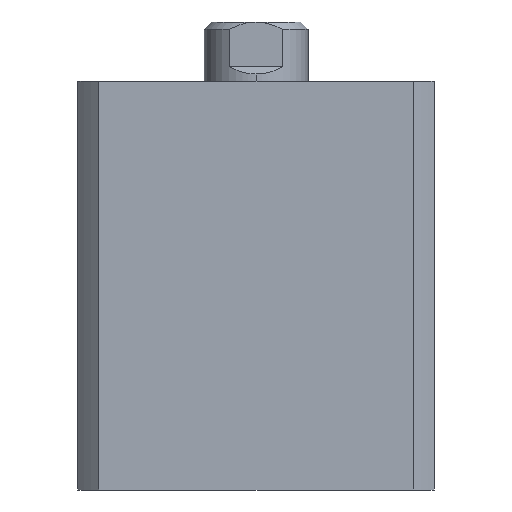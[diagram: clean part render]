
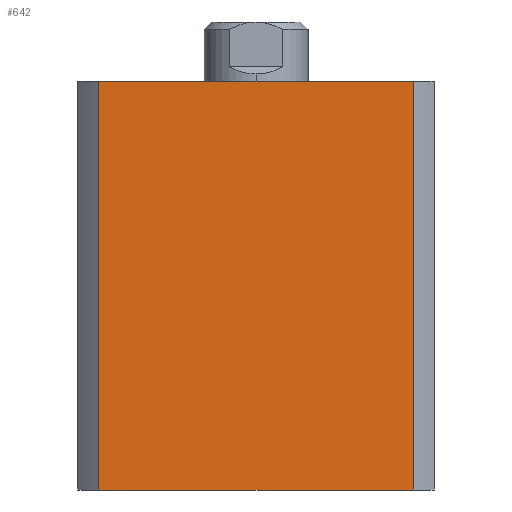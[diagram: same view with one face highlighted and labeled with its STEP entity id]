
A CAD part, left-side view. The second image highlights one B-rep face of the part: STEP entity #642.
In plain terms, the highlighted planar face has unit normal (-1, 0, 0).
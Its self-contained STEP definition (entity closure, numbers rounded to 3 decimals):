
#129 = AXIS2_PLACEMENT_3D ( 'NONE', #4117, #4086, #4085 ) ;
#504 = CARTESIAN_POINT ( 'NONE',  ( -24., 0., 55. ) ) ;
#505 = DIRECTION ( 'NONE',  ( 0., -1., 0. ) ) ;
#642 = ADVANCED_FACE ( 'NONE', ( #701 ), #4103, .F. ) ;
#701 = FACE_OUTER_BOUND ( 'NONE', #2415, .T. ) ;
#788 = LINE ( 'NONE', #4665, #792 ) ;
#789 = LINE ( 'NONE', #4654, #791 ) ;
#790 = LINE ( 'NONE', #4660, #795 ) ;
#791 = VECTOR ( 'NONE', #4655, 1000. ) ;
#792 = VECTOR ( 'NONE', #4675, 1000. ) ;
#795 = VECTOR ( 'NONE', #4677, 1000. ) ;
#1826 = EDGE_CURVE ( 'NONE', #2246, #2229, #789, .T. ) ;
#1828 = EDGE_CURVE ( 'NONE', #2250, #2229, #788, .T. ) ;
#1829 = EDGE_CURVE ( 'NONE', #2252, #2246, #790, .T. ) ;
#1992 = LINE ( 'NONE', #504, #1993 ) ;
#1993 = VECTOR ( 'NONE', #505, 1000. ) ;
#2229 = VERTEX_POINT ( 'NONE', #3409 ) ;
#2246 = VERTEX_POINT ( 'NONE', #3426 ) ;
#2250 = VERTEX_POINT ( 'NONE', #3430 ) ;
#2252 = VERTEX_POINT ( 'NONE', #3432 ) ;
#2415 = EDGE_LOOP ( 'NONE', ( #2580, #2579, #2573, #2583 ) ) ;
#2573 = ORIENTED_EDGE ( 'NONE', *, *, #4010, .F. ) ;
#2579 = ORIENTED_EDGE ( 'NONE', *, *, #1828, .F. ) ;
#2580 = ORIENTED_EDGE ( 'NONE', *, *, #1826, .T. ) ;
#2583 = ORIENTED_EDGE ( 'NONE', *, *, #1829, .T. ) ;
#3409 = CARTESIAN_POINT ( 'NONE',  ( -24., -21.166, 0. ) ) ;
#3426 = CARTESIAN_POINT ( 'NONE',  ( -24., 21.166, 0. ) ) ;
#3430 = CARTESIAN_POINT ( 'NONE',  ( -24., -21.166, 55. ) ) ;
#3432 = CARTESIAN_POINT ( 'NONE',  ( -24., 21.166, 55. ) ) ;
#4010 = EDGE_CURVE ( 'NONE', #2252, #2250, #1992, .T. ) ;
#4085 = DIRECTION ( 'NONE',  ( 0., 0., -1. ) ) ;
#4086 = DIRECTION ( 'NONE',  ( 1., 0., 0. ) ) ;
#4103 = PLANE ( 'NONE',  #129 ) ;
#4117 = CARTESIAN_POINT ( 'NONE',  ( -24., 0., 55. ) ) ;
#4654 = CARTESIAN_POINT ( 'NONE',  ( -24., 0., 0. ) ) ;
#4655 = DIRECTION ( 'NONE',  ( 0., -1., 0. ) ) ;
#4660 = CARTESIAN_POINT ( 'NONE',  ( -24., 21.166, 55. ) ) ;
#4665 = CARTESIAN_POINT ( 'NONE',  ( -24., -21.166, 55. ) ) ;
#4675 = DIRECTION ( 'NONE',  ( 0., 0., -1. ) ) ;
#4677 = DIRECTION ( 'NONE',  ( 0., 0., -1. ) ) ;
